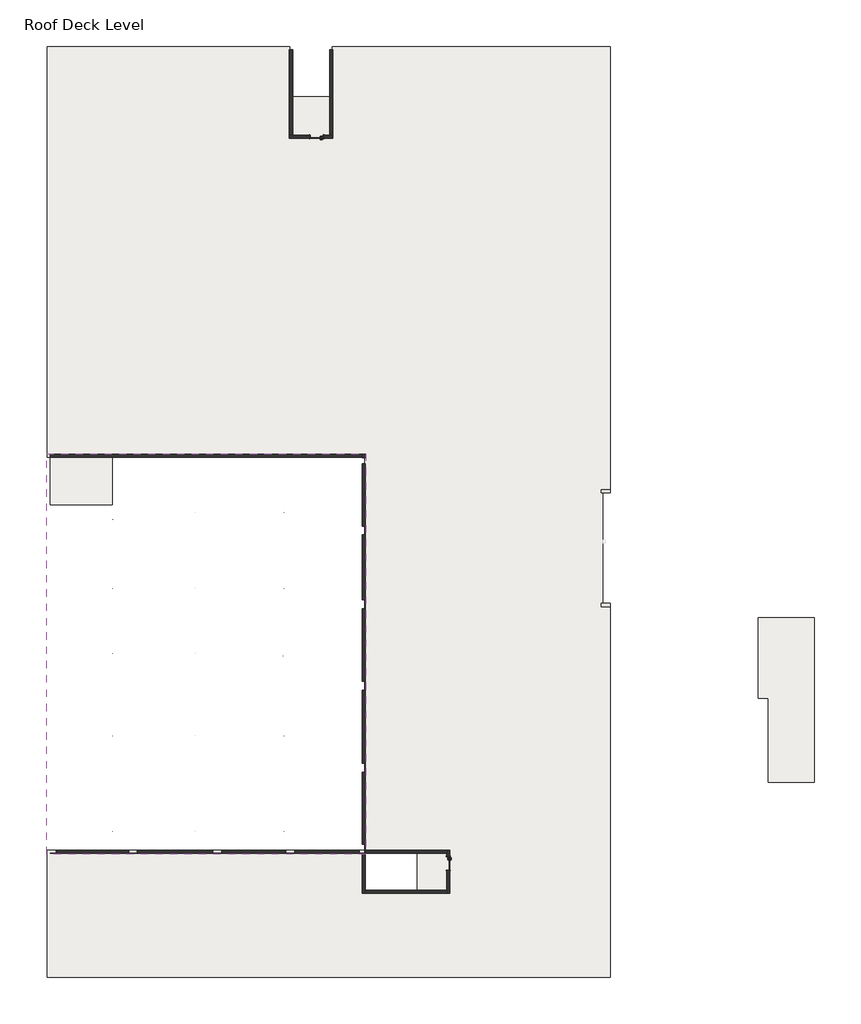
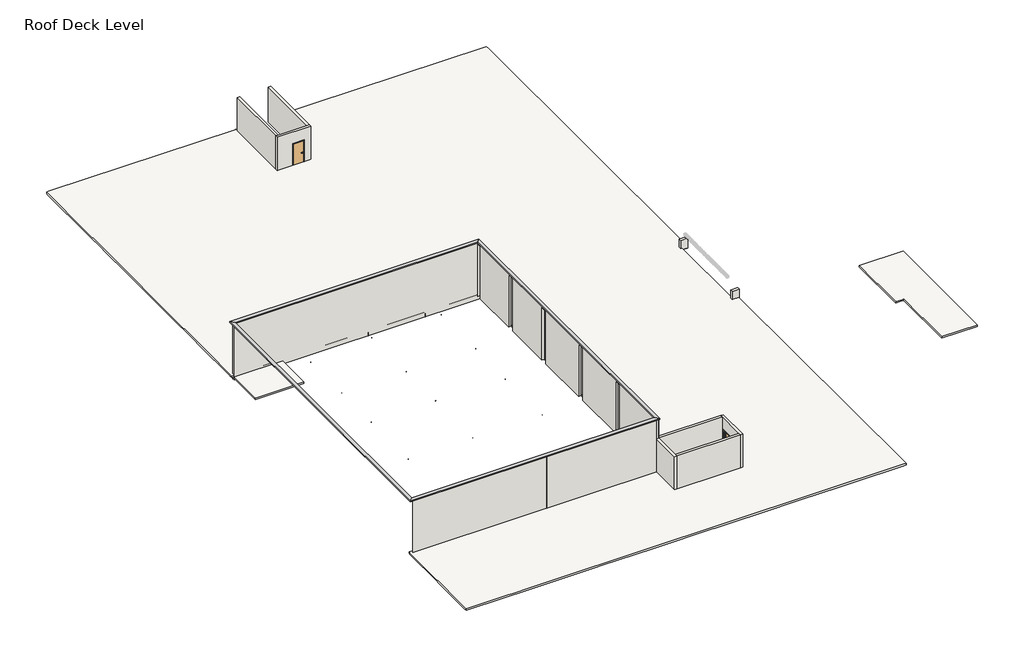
# One storey, part 1 of 2: 15 light fixtures, 12 walls, 3 slabs, 2 doors, 1 proxy.
"""IFC4 building model written with IfcOpenShell, lengths in millimetres."""

from ifc_helpers import new_model, si_unit, frame, origin, place, context, project, spatial, polyline, outline, extrude, faceted_brep, transform, mapped, element, save
from components import int_single_flush_nz_900_x_2100_021ef152, m_studio_light_120v_2dcb9a91

model = new_model("IFC4")

# Units and contexts
model_context = context("Model", 3, world=origin())
ifc_project = project(units=[si_unit("LENGTHUNIT", "METRE", prefix="MILLI")], contexts=[model_context])

# Site, building, storey
site = spatial("IfcSite", under=ifc_project)
building = spatial("IfcBuilding", under=site)
storey = spatial("IfcBuildingStorey", under=building, Name="Roof Deck Level", Elevation=4400.0)

# Proxy
placement = place(None, origin())
element("IfcBuildingElementProxy", 1, Name="Cornice", ObjectType="Cornice", at=placement, inside=storey, context=model_context, shape_type="SweptSolid", body=[
    extrude(outline(polyline([(-22097.2327605, -33004.7846466), (-21797.2327605, -32704.7846466), (-787.2327605, -32704.7846466), (-487.2327605, -33004.7846466), (-22097.2327605, -33004.7846466)])), frame((0.0, 0.0, 9300.0), z_axis=(0.0, 0.0, 1.0), x_axis=(1.0, 0.0, 0.0)), (0.0, 0.0, 1.0), 100.0),
    extrude(outline(polyline([(-787.2327605, -6204.7846466), (-487.2327605, -5904.7846466), (-487.2327605, -33004.7846466), (-787.2327605, -32704.7846466), (-787.2327605, -6204.7846466)])), frame((0.0, 0.0, 9300.0), z_axis=(0.0, 0.0, 1.0), x_axis=(1.0, 0.0, 0.0)), (0.0, 0.0, 1.0), 100.0),
    extrude(outline(polyline([(-487.2327605, -5904.7846466), (-787.2327605, -6204.7846466), (-21797.2327605, -6204.7846466), (-22097.2327605, -5904.7846466), (-487.2327605, -5904.7846466)])), frame((0.0, 0.0, 9300.0), z_axis=(0.0, 0.0, 1.0), x_axis=(1.0, 0.0, 0.0)), (0.0, 0.0, 1.0), 100.0),
    extrude(outline(polyline([(-21797.2327605, -32704.7846466), (-22097.2327605, -33004.7846466), (-22097.2327605, -5904.7846466), (-21797.2327605, -6204.7846466), (-21797.2327605, -32704.7846466)])), frame((0.0, 0.0, 9300.0), z_axis=(0.0, 0.0, 1.0), x_axis=(1.0, 0.0, 0.0)), (0.0, 0.0, 1.0), 100.0),
])

# Doors
int_single_flush_nz_900_x_2100_shape = int_single_flush_nz_900_x_2100_021ef152(model_context)
element("IfcDoor", 2, ObjectType="Int Single-Flush (NZ) : 900 x 2100", at=placement, inside=storey, context=model_context, shape_type="MappedRepresentation", body=[
    mapped(int_single_flush_nz_900_x_2100_shape, transform((5082.7672395, -33708.7846466, 4400.0), x_axis=(0.0, -1.0, 0.0), y_axis=(1.0, 0.0, 0.0), z_axis=(0.0, 0.0, 1.0))),
])
element("IfcDoor", 3, ObjectType="Int Single-Flush (NZ) : 900 x 2100", at=placement, inside=storey, context=model_context, shape_type="MappedRepresentation", body=[
    mapped(int_single_flush_nz_900_x_2100_shape, transform((-3891.2327605, 15545.2153534, 4400.0), x_axis=(-1.0, 0.0, 0.0), y_axis=(0.0, -1.0, 0.0), z_axis=(0.0, 0.0, 1.0))),
])

# Light fixtures
m_studio_light_120v_shape = m_studio_light_120v_2dcb9a91(model_context)
element("IfcLightFixture", 4, ObjectType="M_Studio Light : 120V", at=placement, inside=storey, context=model_context, shape_type="MappedRepresentation", body=[
    mapped(m_studio_light_120v_shape, transform((-12047.2327605, -9864.7846466, 4400.0), x_axis=(1.0, 0.0, 0.0), y_axis=(0.0, 1.0, 0.0), z_axis=(0.0, 0.0, 1.0))),
])
element("IfcLightFixture", 5, ObjectType="M_Studio Light : 120V", at=placement, inside=storey, context=model_context, shape_type="MappedRepresentation", body=[
    mapped(m_studio_light_120v_shape, transform((-12047.2327605, -15012.7846466, 4400.0), x_axis=(1.0, 0.0, 0.0), y_axis=(0.0, 1.0, 0.0), z_axis=(0.0, 0.0, 1.0))),
])
element("IfcLightFixture", 6, ObjectType="M_Studio Light : 120V", at=placement, inside=storey, context=model_context, shape_type="MappedRepresentation", body=[
    mapped(m_studio_light_120v_shape, transform((-12047.2327605, -19404.7846466, 4400.0), x_axis=(1.0, 0.0, 0.0), y_axis=(0.0, 1.0, 0.0), z_axis=(0.0, 0.0, 1.0))),
])
element("IfcLightFixture", 7, ObjectType="M_Studio Light : 120V", at=placement, inside=storey, context=model_context, shape_type="MappedRepresentation", body=[
    mapped(m_studio_light_120v_shape, transform((-12047.2327605, -25004.7846466, 4400.0), x_axis=(1.0, 0.0, 0.0), y_axis=(0.0, 1.0, 0.0), z_axis=(0.0, 0.0, 1.0))),
])
element("IfcLightFixture", 8, ObjectType="M_Studio Light : 120V", at=placement, inside=storey, context=model_context, shape_type="MappedRepresentation", body=[
    mapped(m_studio_light_120v_shape, transform((-12047.2327605, -31454.7846468, 4400.0), x_axis=(1.0, 0.0, 0.0), y_axis=(0.0, 1.0, 0.0), z_axis=(0.0, 0.0, 1.0))),
])
element("IfcLightFixture", 9, ObjectType="M_Studio Light : 120V", at=placement, inside=storey, context=model_context, shape_type="MappedRepresentation", body=[
    mapped(m_studio_light_120v_shape, transform((-17631.8152535, -10364.7846466, 4400.0), x_axis=(1.0, 0.0, 0.0), y_axis=(0.0, 1.0, 0.0), z_axis=(0.0, 0.0, 1.0))),
])
element("IfcLightFixture", 10, ObjectType="M_Studio Light : 120V", at=placement, inside=storey, context=model_context, shape_type="MappedRepresentation", body=[
    mapped(m_studio_light_120v_shape, transform((-17631.8152535, -15012.7846466, 4400.0), x_axis=(1.0, 0.0, 0.0), y_axis=(0.0, 1.0, 0.0), z_axis=(0.0, 0.0, 1.0))),
])
element("IfcLightFixture", 11, ObjectType="M_Studio Light : 120V", at=placement, inside=storey, context=model_context, shape_type="MappedRepresentation", body=[
    mapped(m_studio_light_120v_shape, transform((-17631.8152535, -19404.7846466, 4400.0), x_axis=(1.0, 0.0, 0.0), y_axis=(0.0, 1.0, 0.0), z_axis=(0.0, 0.0, 1.0))),
])
element("IfcLightFixture", 12, ObjectType="M_Studio Light : 120V", at=placement, inside=storey, context=model_context, shape_type="MappedRepresentation", body=[
    mapped(m_studio_light_120v_shape, transform((-17631.8152535, -25004.7846466, 4400.0), x_axis=(1.0, 0.0, 0.0), y_axis=(0.0, 1.0, 0.0), z_axis=(0.0, 0.0, 1.0))),
])
element("IfcLightFixture", 13, ObjectType="M_Studio Light : 120V", at=placement, inside=storey, context=model_context, shape_type="MappedRepresentation", body=[
    mapped(m_studio_light_120v_shape, transform((-17631.8152535, -31454.7846468, 4400.0), x_axis=(1.0, 0.0, 0.0), y_axis=(0.0, 1.0, 0.0), z_axis=(0.0, 0.0, 1.0))),
])
element("IfcLightFixture", 14, ObjectType="M_Studio Light : 120V", at=placement, inside=storey, context=model_context, shape_type="MappedRepresentation", body=[
    mapped(m_studio_light_120v_shape, transform((-6028.3780019, -9864.7846466, 4400.0), x_axis=(1.0, 0.0, 0.0), y_axis=(0.0, 1.0, 0.0), z_axis=(0.0, 0.0, 1.0))),
])
element("IfcLightFixture", 15, ObjectType="M_Studio Light : 120V", at=placement, inside=storey, context=model_context, shape_type="MappedRepresentation", body=[
    mapped(m_studio_light_120v_shape, transform((-6028.3780019, -15012.7846466, 4400.0), x_axis=(1.0, 0.0, 0.0), y_axis=(0.0, 1.0, 0.0), z_axis=(0.0, 0.0, 1.0))),
])
element("IfcLightFixture", 16, ObjectType="M_Studio Light : 120V", at=placement, inside=storey, context=model_context, shape_type="MappedRepresentation", body=[
    mapped(m_studio_light_120v_shape, transform((-6093.240678, -19574.7846466, 4400.0), x_axis=(1.0, 0.0, 0.0), y_axis=(0.0, 1.0, 0.0), z_axis=(0.0, 0.0, 1.0))),
])
element("IfcLightFixture", 17, ObjectType="M_Studio Light : 120V", at=placement, inside=storey, context=model_context, shape_type="MappedRepresentation", body=[
    mapped(m_studio_light_120v_shape, transform((-6028.3780019, -25004.7846466, 4400.0), x_axis=(1.0, 0.0, 0.0), y_axis=(0.0, 1.0, 0.0), z_axis=(0.0, 0.0, 1.0))),
])
element("IfcLightFixture", 18, ObjectType="M_Studio Light : 120V", at=placement, inside=storey, context=model_context, shape_type="MappedRepresentation", body=[
    mapped(m_studio_light_120v_shape, transform((-6028.3780019, -31454.7846468, 4400.0), x_axis=(1.0, 0.0, 0.0), y_axis=(0.0, 1.0, 0.0), z_axis=(0.0, 0.0, 1.0))),
])

# Slabs
element("IfcSlab", 19, ObjectType="Concrete130mm", at=placement, inside=storey, context=model_context, shape_type="Brep", body=[
    faceted_brep([(-21847.2327605, -6174.7846466, 4270.0), (-21447.2327605, -6174.7846466, 4270.0), (-17657.2327605, -6174.7846466, 4270.0), (-17657.2327605, -9154.7846466, 4270.0), (-17657.2327605, -9354.7846466, 4270.0), (-18047.2327605, -9354.7846466, 4270.0), (-21837.2327605, -9354.7846466, 4270.0), (-21847.2327605, -9354.7846466, 4270.0), (-21847.2327605, -6574.7846466, 4270.0), (-21847.2327605, -6174.7846466, 4400.0), (-21847.2327605, -6574.7846466, 4400.0), (-21847.2327605, -9354.7846466, 4400.0), (-21837.2327605, -9354.7846466, 4400.0), (-17657.2327605, -9354.7846466, 4400.0), (-17657.2327605, -9154.7846466, 4400.0), (-17657.2327605, -6174.7846466, 4400.0), (-21447.2327605, -6174.7846466, 4400.0)], [[[0, 1, 2, 3, 4, 5, 6, 7, 8]], [[9, 10, 11, 12, 13, 14, 15, 16]], [[2, 1, 0, 9, 16, 15]], [[4, 3, 2, 15, 14, 13]], [[7, 6, 5, 4, 13, 12, 11]], [[0, 8, 7, 11, 10, 9]]]),
])
element("IfcSlab", 20, ObjectType="Concrete130mm", at=placement, inside=storey, context=model_context, shape_type="Brep", body=[
    faceted_brep([(29852.7672395, -17004.7846454, 4270.0), (29852.7672395, -17014.7846454, 4270.0), (29852.7672395, -28154.7846456, 4270.0), (29842.7672395, -28154.7846456, 4270.0), (26752.7672394, -28154.7846456, 4270.0), (26752.7672394, -28144.7846456, 4270.0), (26752.7672394, -22454.7846454, 4270.0), (26542.7672394, -22454.7846454, 4270.0), (26052.7672395, -22454.7846454, 4270.0), (26052.7672395, -22444.7846454, 4270.0), (26052.7672395, -17014.7846454, 4270.0), (26052.7672395, -17004.7846454, 4270.0), (29852.7672395, -17004.7846454, 4400.0), (26052.7672395, -17004.7846454, 4400.0), (26052.7672395, -17014.7846454, 4400.0), (26052.7672395, -22444.7846454, 4400.0), (26052.7672395, -22454.7846454, 4400.0), (26542.7672394, -22454.7846454, 4400.0), (26752.7672394, -22454.7846454, 4400.0), (26752.7672394, -28144.7846456, 4400.0), (26752.7672394, -28154.7846456, 4400.0), (29842.7672395, -28154.7846456, 4400.0), (29852.7672395, -28154.7846456, 4400.0), (29852.7672395, -17014.7846454, 4400.0)], [[[0, 1, 2, 3, 4, 5, 6, 7, 8, 9, 10, 11]], [[12, 13, 14, 15, 16, 17, 18, 19, 20, 21, 22, 23]], [[2, 1, 0, 12, 23, 22]], [[4, 3, 2, 22, 21, 20]], [[6, 5, 4, 20, 19, 18]], [[8, 7, 6, 18, 17, 16]], [[11, 10, 9, 8, 16, 15, 14, 13]], [[0, 11, 13, 12]]]),
])
element("IfcSlab", 21, ObjectType="Generic 150mm", at=placement, inside=storey, context=model_context, shape_type="Brep", body=[
    faceted_brep([(-5647.2327605, 21645.2153534, 4400.0), (-5647.2327605, 18235.506875, 4400.0), (-2747.2327605, 18235.506875, 4400.0), (-2747.2327605, 21645.2153534, 4400.0), (-2737.2327605, 21645.2153534, 4400.0), (2802.7672395, 21645.2153534, 4400.0), (3302.7672395, 21645.2153534, 4400.0), (7652.7672395, 21645.2153534, 4400.0), (7852.7672395, 21645.2153534, 4400.0), (11052.7672395, 21645.2153534, 4400.0), (11552.7672395, 21645.2153534, 4400.0), (15652.7672395, 21645.2153534, 4400.0), (16052.7672395, 21645.2153534, 4400.0), (16052.7672395, 21445.2153534, 4400.0), (16052.7672395, 21435.2153534, 4400.0), (16052.7672395, 15645.2153534, 4400.0), (16052.7672395, 15145.2153534, 4400.0), (16052.7672395, 9795.2153534, 4400.0), (16052.7672395, 9295.2153534, 4400.0), (16052.7672395, 3795.2153534, 4400.0), (16052.7672395, 3295.2153534, 4400.0), (16052.7672395, -2204.7846466, 4400.0), (16052.7672395, -2704.7846466, 4400.0), (16052.7672395, -8134.7846466, 4400.0), (16052.7672395, -8334.7846466, 4400.0), (16052.7672395, -8344.7846466, 4400.0), (16052.7672395, -8354.7846466, 4400.0), (16052.7672395, -8554.7846466, 4400.0), (15652.7672395, -8554.7846466, 4400.0), (15552.7672395, -8554.7846466, 4400.0), (15552.7672395, -8564.7846466, 4400.0), (15552.7672395, -16044.7846466, 4400.0), (15552.7672395, -16054.7846466, 4400.0), (15852.7672395, -16054.7846466, 4400.0), (16052.7672395, -16054.7846466, 4400.0), (16053.0482736, -16054.7846466, 4400.0), (16053.0482736, -16264.7846466, 4400.0), (16053.0482736, -41354.7846466, 4400.0), (16052.7672395, -41354.7846466, 4400.0), (15852.7672395, -41354.7846466, 4400.0), (15843.0482736, -41354.7846466, 4400.0), (11502.7672395, -41354.7846466, 4400.0), (11002.7672395, -41354.7846466, 4400.0), (7852.7672395, -41354.7846466, 4400.0), (7652.7672395, -41354.7846466, 4400.0), (5452.7672395, -41354.7846466, 4400.0), (4952.7672395, -41354.7846466, 4400.0), (-547.2327605, -41354.7846466, 4400.0), (-747.2327605, -41354.7846466, 4400.0), (-5397.2327605, -41354.7846466, 4400.0), (-5897.2327605, -41354.7846466, 4400.0), (-10297.2327605, -41354.7846466, 4400.0), (-10797.2327605, -41354.7846466, 4400.0), (-15997.2327605, -41354.7846466, 4400.0), (-16497.2327605, -41354.7846466, 4400.0), (-21647.2327605, -41354.7846466, 4400.0), (-22047.2327605, -41354.7846466, 4400.0), (-22047.2327605, -41154.7846466, 4400.0), (-22047.2327605, -41144.7846466, 4400.0), (-22047.2327605, -37304.7846466, 4400.0), (-22047.2327605, -36804.7846466, 4400.0), (-22047.2327605, -32964.7846466, 4400.0), (-22047.2327605, -32954.7846466, 4400.0), (-22047.2327605, -32754.7846466, 4400.0), (-21447.2327605, -32754.7846466, 4400.0), (-16547.2327605, -32754.7846466, 4400.0), (-15947.2327605, -32754.7846466, 4400.0), (-10847.2327605, -32754.7846466, 4400.0), (-10247.2327605, -32754.7846466, 4400.0), (-5897.2327605, -32754.7846466, 4400.0), (-5297.2327605, -32754.7846466, 4400.0), (-947.2327605, -32754.7846466, 4400.0), (-547.2327605, -32754.7846466, 4400.0), (-547.2327605, -32354.7846466, 4400.0), (-547.2327605, -27454.7846466, 4400.0), (-547.2327605, -26854.7846466, 4400.0), (-547.2327605, -21904.7846466, 4400.0), (-547.2327605, -21304.7846466, 4400.0), (-547.2327605, -16404.7846466, 4400.0), (-547.2327605, -15804.7846466, 4400.0), (-547.2327605, -11404.7846466, 4400.0), (-547.2327605, -10804.7846466, 4400.0), (-547.2327605, -6574.7846466, 4400.0), (-547.2327605, -6174.7846466, 4400.0), (-547.2327605, -6154.7846466, 4400.0), (-927.2327605, -6154.7846466, 4400.0), (-5297.2327605, -6154.7846466, 4400.0), (-5897.2327605, -6154.7846466, 4400.0), (-10247.2327605, -6154.7846466, 4400.0), (-10847.2327605, -6154.7846466, 4400.0), (-15947.2327605, -6154.7846466, 4400.0), (-16547.2327605, -6154.7846466, 4400.0), (-21447.2327605, -6154.7846466, 4400.0), (-22047.2327605, -6154.7846466, 4400.0), (-22047.2327605, -5954.7846466, 4400.0), (-22047.2327605, -5944.7846466, 4400.0), (-22047.2327605, -1154.7846466, 4400.0), (-22047.2327605, -654.7846466, 4400.0), (-22047.2327605, 3295.2153534, 4400.0), (-22047.2327605, 3795.2153534, 4400.0), (-22047.2327605, 8895.2153534, 4400.0), (-22047.2327605, 9395.2153534, 4400.0), (-22047.2327605, 13045.2153534, 4400.0), (-22047.2327605, 13245.2153534, 4400.0), (-22047.2327605, 15445.2153534, 4400.0), (-22047.2327605, 15645.2153534, 4400.0), (-22047.2327605, 21445.2153534, 4400.0), (-22047.2327605, 21645.2153534, 4400.0), (-21647.2327605, 21645.2153534, 4400.0), (-16297.2327605, 21645.2153534, 4400.0), (-15797.2327605, 21645.2153534, 4400.0), (-11697.2327605, 21645.2153534, 4400.0), (-11197.2327605, 21645.2153534, 4400.0), (-5657.2327605, 21645.2153534, 4400.0), (2961.7442506, -32964.7846466, 4400.0), (-527.2327605, -32964.7846466, 4400.0), (-527.2327605, -35444.7846466, 4400.0), (2961.7442506, -35444.7846466, 4400.0), (-5647.2327605, 21645.2153534, 4550.0), (-5657.2327605, 21645.2153534, 4550.0), (-21837.2327605, 21645.2153534, 4550.0), (-22047.2327605, 21645.2153534, 4550.0), (-22047.2327605, -5944.7846466, 4550.0), (-22047.2327605, -6154.7846466, 4550.0), (-547.2327605, -6154.7846466, 4550.0), (-547.2327605, -6174.7846466, 4550.0), (-547.2327605, -6574.7846466, 4550.0), (-547.2327605, -32754.7846466, 4550.0), (-947.2327605, -32754.7846466, 4550.0), (-5297.2327605, -32754.7846466, 4550.0), (-5897.2327605, -32754.7846466, 4550.0), (-10247.2327605, -32754.7846466, 4550.0), (-10847.2327605, -32754.7846466, 4550.0), (-15947.2327605, -32754.7846466, 4550.0), (-16547.2327605, -32754.7846466, 4550.0), (-21447.2327605, -32754.7846466, 4550.0), (-22047.2327605, -32754.7846466, 4550.0), (-22047.2327605, -32954.7846466, 4550.0), (-22047.2327605, -32964.7846466, 4550.0), (-22047.2327605, -41144.7846466, 4550.0), (-22047.2327605, -41354.7846466, 4550.0), (15843.0482736, -41354.7846466, 4550.0), (16053.0482736, -41354.7846466, 4550.0), (16053.0482736, -16264.7846466, 4550.0), (16053.0482736, -16054.7846466, 4550.0), (15552.7672395, -16054.7846466, 4550.0), (15552.7672395, -16044.7846466, 4550.0), (15552.7672395, -8564.7846466, 4550.0), (15552.7672395, -8554.7846466, 4550.0), (16052.7672395, -8554.7846466, 4550.0), (16052.7672395, -8344.7846466, 4550.0), (16052.7672395, 21435.2153534, 4550.0), (16052.7672395, 21645.2153534, 4550.0), (-2737.2327605, 21645.2153534, 4550.0), (-2747.2327605, 21645.2153534, 4550.0), (-2747.2327605, 18235.506875, 4550.0), (-5647.2327605, 18235.506875, 4550.0), (2961.7442506, -32964.7846466, 4550.0), (2961.7442506, -35444.7846466, 4550.0), (-527.2327605, -35444.7846466, 4550.0), (-527.2327605, -32964.7846466, 4550.0)], [[[0, 1, 2, 3, 4, 5, 6, 7, 8, 9, 10, 11, 12, 13, 14, 15, 16, 17, 18, 19, 20, 21, 22, 23, 24, 25, 26, 27, 28, 29, 30, 31, 32, 33, 34, 35, 36, 37, 38, 39, 40, 41, 42, 43, 44, 45, 46, 47, 48, 49, 50, 51, 52, 53, 54, 55, 56, 57, 58, 59, 60, 61, 62, 63, 64, 65, 66, 67, 68, 69, 70, 71, 72, 73, 74, 75, 76, 77, 78, 79, 80, 81, 82, 83, 84, 85, 86, 87, 88, 89, 90, 91, 92, 93, 94, 95, 96, 97, 98, 99, 100, 101, 102, 103, 104, 105, 106, 107, 108, 109, 110, 111, 112, 113], [114, 115, 116, 117]], [[118, 119, 120, 121, 122, 123, 124, 125, 126, 127, 128, 129, 130, 131, 132, 133, 134, 135, 136, 137, 138, 139, 140, 141, 142, 143, 144, 145, 146, 147, 148, 149, 150, 151, 152, 153, 154, 155, 156], [157, 158, 159, 160]], [[1, 0, 118, 156]], [[2, 1, 156, 155]], [[3, 2, 155, 154]], [[12, 11, 10, 9, 8, 7, 6, 5, 4, 3, 154, 153, 152]], [[27, 26, 25, 24, 23, 22, 21, 20, 19, 18, 17, 16, 15, 14, 13, 12, 152, 151, 150, 149]], [[29, 28, 27, 149, 148]], [[32, 31, 30, 29, 148, 147, 146, 145]], [[35, 34, 33, 32, 145, 144]], [[37, 36, 35, 144, 143, 142]], [[56, 55, 54, 53, 52, 51, 50, 49, 48, 47, 46, 45, 44, 43, 42, 41, 40, 39, 38, 37, 142, 141, 140]], [[63, 62, 61, 60, 59, 58, 57, 56, 140, 139, 138, 137, 136]], [[72, 71, 70, 69, 68, 67, 66, 65, 64, 63, 136, 135, 134, 133, 132, 131, 130, 129, 128, 127]], [[84, 83, 82, 81, 80, 79, 78, 77, 76, 75, 74, 73, 72, 127, 126, 125, 124]], [[93, 92, 91, 90, 89, 88, 87, 86, 85, 84, 124, 123]], [[107, 106, 105, 104, 103, 102, 101, 100, 99, 98, 97, 96, 95, 94, 93, 123, 122, 121]], [[0, 113, 112, 111, 110, 109, 108, 107, 121, 120, 119, 118]], [[115, 114, 157, 160]], [[116, 115, 160, 159]], [[117, 116, 159, 158]], [[114, 117, 158, 157]]]),
])

# Walls
element("IfcWall", 22, ObjectType="Exterior - Blockwork 200mm", at=placement, inside=storey, context=model_context, shape_type="Brep", body=[
    faceted_brep([(-747.2327605, -32964.7846466, 9300.0), (-747.2327605, -32744.7846466, 9300.0), (-747.2327605, -6164.7846466, 9300.0), (-747.2327605, -5944.7846466, 9300.0), (-747.2327605, -5944.7846466, 4400.0), (-747.2327605, -6164.7846466, 4400.0), (-747.2327605, -6174.7846466, 4400.0), (-747.2327605, -6174.7846466, 9200.0), (-747.2327605, -6574.7846466, 9200.0), (-747.2327605, -6574.7846466, 4400.0), (-747.2327605, -10804.7846466, 4400.0), (-747.2327605, -10804.7846466, 9200.0), (-747.2327605, -11404.7846466, 9200.0), (-747.2327605, -11404.7846466, 4400.0), (-747.2327605, -15804.7846466, 4400.0), (-747.2327605, -15804.7846466, 9200.0), (-747.2327605, -16404.7846466, 9200.0), (-747.2327605, -16404.7846466, 4400.0), (-747.2327605, -21304.7846466, 4400.0), (-747.2327605, -21304.7846466, 9200.0), (-747.2327605, -21904.7846466, 9200.0), (-747.2327605, -21904.7846466, 4400.0), (-747.2327605, -26854.7846466, 4400.0), (-747.2327605, -26854.7846466, 9200.0), (-747.2327605, -27454.7846466, 9200.0), (-747.2327605, -27454.7846466, 4400.0), (-747.2327605, -32354.7846466, 4400.0), (-747.2327605, -32354.7846466, 9200.0), (-747.2327605, -32744.7846466, 9200.0), (-747.2327605, -32954.7846466, 9200.0), (-747.2327605, -32954.7846466, 4400.0), (-747.2327605, -32964.7846466, 4400.0), (-527.2327605, -5944.7846466, 9300.0), (-527.2327605, -32964.7846466, 9300.0), (-527.2327605, -32964.7846466, 7577.9866743), (-527.2327605, -32964.7846466, 4400.0), (-527.2327605, -32744.7846466, 4400.0), (-527.2327605, -6574.7846466, 4400.0), (-527.2327605, -6574.7846466, 9200.0), (-527.2327605, -6174.7846466, 9200.0), (-527.2327605, -6174.7846466, 4400.0), (-527.2327605, -5944.7846466, 4400.0), (-547.2327605, -32954.7846466, 4400.0), (-547.2327605, -32354.7846466, 4400.0), (-547.2327605, -27454.7846466, 4400.0), (-547.2327605, -26854.7846466, 4400.0), (-547.2327605, -21904.7846466, 4400.0), (-547.2327605, -21304.7846466, 4400.0), (-547.2327605, -16404.7846466, 4400.0), (-547.2327605, -15804.7846466, 4400.0), (-547.2327605, -11404.7846466, 4400.0), (-547.2327605, -10804.7846466, 4400.0), (-537.2327605, -5944.7846466, 4400.0), (-547.2327605, -32954.7846466, 9200.0), (-547.2327605, -32354.7846466, 9200.0), (-547.2327605, -32954.7846466, 4550.0), (-547.2327605, -27454.7846466, 9200.0), (-547.2327605, -26854.7846466, 9200.0), (-547.2327605, -21904.7846466, 9200.0), (-547.2327605, -21304.7846466, 9200.0), (-547.2327605, -16404.7846466, 9200.0), (-547.2327605, -15804.7846466, 9200.0), (-547.2327605, -11404.7846466, 9200.0), (-547.2327605, -10804.7846466, 9200.0)], [[[0, 1, 2, 3, 4, 5, 6, 7, 8, 9, 10, 11, 12, 13, 14, 15, 16, 17, 18, 19, 20, 21, 22, 23, 24, 25, 26, 27, 28, 29, 30, 31]], [[32, 33, 34, 35, 36, 37, 38, 39, 40, 41]], [[42, 43, 26, 25, 44, 45, 22, 21, 46, 47, 18, 17, 48, 49, 14, 13, 50, 51, 10, 9, 37, 36, 35, 31, 30]], [[4, 52, 41, 40, 6, 5]], [[3, 2, 1, 0, 33, 32]], [[53, 54, 43, 42, 55]], [[54, 27, 26, 43]], [[54, 53, 29, 28, 27]], [[56, 57, 45, 44]], [[24, 56, 44, 25]], [[57, 23, 22, 45]], [[57, 56, 24, 23]], [[58, 59, 47, 46]], [[20, 58, 46, 21]], [[59, 19, 18, 47]], [[59, 58, 20, 19]], [[60, 61, 49, 48]], [[16, 60, 48, 17]], [[61, 15, 14, 49]], [[61, 60, 16, 15]], [[62, 63, 51, 50]], [[12, 62, 50, 13]], [[63, 11, 10, 51]], [[63, 62, 12, 11]], [[39, 7, 6, 40]], [[38, 8, 7, 39]], [[4, 3, 32, 41, 52]], [[29, 53, 55, 42, 30]], [[31, 35, 34, 33, 0]], [[8, 38, 37, 9]]]),
])
element("IfcWall", 23, ObjectType="Exterior - Blockwork 200mm", at=placement, inside=storey, context=model_context, shape_type="Brep", body=[
    faceted_brep([(-537.2327605, -5944.7846466, 4100.0), (-21837.2327605, -5944.7846466, 4100.0), (-21837.2327605, -5944.7846466, 5302.8002678), (-21837.2327605, -5944.7846466, 9300.0), (-747.2327605, -5944.7846466, 9300.0), (-747.2327605, -5944.7846466, 4400.0), (-537.2327605, -5944.7846466, 4400.0), (-21837.2327605, -6164.7846466, 4100.0), (-537.2327605, -6164.7846466, 4100.0), (-537.2327605, -6164.7846466, 4400.0), (-747.2327605, -6164.7846466, 4400.0), (-747.2327605, -6164.7846466, 9300.0), (-21837.2327605, -6164.7846466, 9300.0), (-537.2327605, -5954.7846466, 4100.0), (-927.2327605, -5954.7846466, 4100.0), (-927.2327605, -6154.7846466, 4100.0), (-537.2327605, -6154.7846466, 4100.0), (-21837.2327605, -6154.7846466, 4100.0), (-21447.2327605, -6154.7846466, 4100.0), (-21447.2327605, -5954.7846466, 4100.0), (-21837.2327605, -5954.7846466, 4100.0), (-16547.2327605, -6154.7846466, 4100.0), (-15947.2327605, -6154.7846466, 4100.0), (-15947.2327605, -5954.7846466, 4100.0), (-16547.2327605, -5954.7846466, 4100.0), (-10847.2327605, -6154.7846466, 4100.0), (-10247.2327605, -6154.7846466, 4100.0), (-10247.2327605, -5954.7846466, 4100.0), (-10847.2327605, -5954.7846466, 4100.0), (-5897.2327605, -6154.7846466, 4100.0), (-5297.2327605, -6154.7846466, 4100.0), (-5297.2327605, -5954.7846466, 4100.0), (-5897.2327605, -5954.7846466, 4100.0), (-537.2327605, -6154.7846466, 4400.0), (-747.2327605, -6154.7846466, 4400.0), (-747.2327605, -5954.7846466, 4400.0), (-537.2327605, -5954.7846466, 4400.0), (-21447.2327605, -6154.7846466, 4400.0), (-21837.2327605, -6154.7846466, 4400.0), (-21447.2327605, -5954.7846466, 4400.0), (-21837.2327605, -5954.7846466, 4400.0), (-16547.2327605, -6154.7846466, 4400.0), (-15947.2327605, -6154.7846466, 4400.0), (-16547.2327605, -5954.7846466, 4400.0), (-15947.2327605, -5954.7846466, 4400.0), (-10847.2327605, -6154.7846466, 4400.0), (-10247.2327605, -6154.7846466, 4400.0), (-10847.2327605, -5954.7846466, 4400.0), (-10247.2327605, -5954.7846466, 4400.0), (-5897.2327605, -6154.7846466, 4400.0), (-5297.2327605, -6154.7846466, 4400.0), (-5897.2327605, -5954.7846466, 4400.0), (-5297.2327605, -5954.7846466, 4400.0), (-927.2327605, -6154.7846466, 4400.0), (-927.2327605, -5954.7846466, 4400.0)], [[[0, 1, 2, 3, 4, 5, 6]], [[7, 8, 9, 10, 11, 12]], [[1, 0, 13, 14, 15, 16, 8, 7, 17, 18, 19, 20], [21, 22, 23, 24], [25, 26, 27, 28], [29, 30, 31, 32]], [[4, 3, 12, 11]], [[10, 9, 33, 34]], [[6, 5, 35, 36]], [[9, 8, 16, 33]], [[0, 6, 36, 13]], [[4, 11, 10, 34, 35, 5]], [[37, 18, 17, 38]], [[19, 39, 40, 20]], [[37, 39, 19, 18]], [[39, 37, 38, 40]], [[41, 42, 22, 21]], [[43, 41, 21, 24]], [[44, 43, 24, 23]], [[42, 44, 23, 22]], [[42, 41, 43, 44]], [[45, 46, 26, 25]], [[47, 45, 25, 28]], [[48, 47, 28, 27]], [[46, 48, 27, 26]], [[46, 45, 47, 48]], [[49, 50, 30, 29]], [[51, 49, 29, 32]], [[52, 51, 32, 31]], [[50, 52, 31, 30]], [[50, 49, 51, 52]], [[53, 34, 33, 16, 15]], [[54, 53, 15, 14]], [[35, 54, 14, 13, 36]], [[53, 54, 35, 34]], [[12, 3, 2, 1, 20, 40, 38, 17, 7]]]),
])
element("IfcWall", 24, ObjectType="Exterior - Blockwork 200mm", at=placement, inside=storey, context=model_context, shape_type="Brep", body=[
    faceted_brep([(-21837.2327605, -32964.7846466, 4400.0), (-747.2327605, -32964.7846466, 4400.0), (-747.2327605, -32964.7846466, 9300.0), (-21837.2327605, -32964.7846466, 9300.0), (-21837.2327605, -32744.7846466, 9300.0), (-747.2327605, -32744.7846466, 9300.0), (-747.2327605, -32744.7846466, 9200.0), (-947.2327605, -32744.7846466, 9200.0), (-947.2327605, -32744.7846466, 4400.0), (-5297.2327605, -32744.7846466, 4400.0), (-5297.2327605, -32744.7846466, 9200.0), (-5897.2327605, -32744.7846466, 9200.0), (-5897.2327605, -32744.7846466, 4400.0), (-10247.2327605, -32744.7846466, 4400.0), (-10247.2327605, -32744.7846466, 9200.0), (-10847.2327605, -32744.7846466, 9200.0), (-10847.2327605, -32744.7846466, 4400.0), (-15947.2327605, -32744.7846466, 4400.0), (-15947.2327605, -32744.7846466, 9200.0), (-16547.2327605, -32744.7846466, 9200.0), (-16547.2327605, -32744.7846466, 4400.0), (-21447.2327605, -32744.7846466, 4400.0), (-21447.2327605, -32744.7846466, 9200.0), (-21837.2327605, -32744.7846466, 9200.0), (-21837.2327605, -32954.7846466, 4400.0), (-21447.2327605, -32954.7846466, 4400.0), (-16547.2327605, -32954.7846466, 4400.0), (-15947.2327605, -32954.7846466, 4400.0), (-10847.2327605, -32954.7846466, 4400.0), (-10247.2327605, -32954.7846466, 4400.0), (-5897.2327605, -32954.7846466, 4400.0), (-5297.2327605, -32954.7846466, 4400.0), (-947.2327605, -32954.7846466, 4400.0), (-747.2327605, -32954.7846466, 4400.0), (-747.2327605, -32954.7846466, 9200.0), (-21837.2327605, -32954.7846466, 9200.0), (-21447.2327605, -32954.7846466, 4550.0), (-21447.2327605, -32954.7846466, 9200.0), (-15947.2327605, -32954.7846466, 4550.0), (-15947.2327605, -32954.7846466, 9200.0), (-16547.2327605, -32954.7846466, 9200.0), (-16547.2327605, -32954.7846466, 4550.0), (-10247.2327605, -32954.7846466, 4550.0), (-10247.2327605, -32954.7846466, 9200.0), (-10847.2327605, -32954.7846466, 9200.0), (-10847.2327605, -32954.7846466, 4550.0), (-5297.2327605, -32954.7846466, 4550.0), (-5297.2327605, -32954.7846466, 9200.0), (-5897.2327605, -32954.7846466, 9200.0), (-5897.2327605, -32954.7846466, 4550.0), (-947.2327605, -32954.7846466, 4550.0), (-947.2327605, -32954.7846466, 9200.0)], [[[0, 1, 2, 3]], [[4, 5, 6, 7, 8, 9, 10, 11, 12, 13, 14, 15, 16, 17, 18, 19, 20, 21, 22, 23]], [[1, 0, 24, 25, 21, 20, 26, 27, 17, 16, 28, 29, 13, 12, 30, 31, 9, 8, 32, 33]], [[3, 2, 5, 4]], [[5, 2, 1, 33, 34, 6]], [[3, 4, 23, 35, 24, 0]], [[25, 36, 37, 22, 21]], [[37, 36, 25, 24, 35]], [[22, 37, 35, 23]], [[27, 38, 39, 18, 17]], [[40, 39, 38, 27, 26, 41]], [[40, 41, 26, 20, 19]], [[39, 40, 19, 18]], [[29, 42, 43, 14, 13]], [[44, 43, 42, 29, 28, 45]], [[44, 45, 28, 16, 15]], [[43, 44, 15, 14]], [[31, 46, 47, 10, 9]], [[48, 47, 46, 31, 30, 49]], [[48, 49, 30, 12, 11]], [[47, 48, 11, 10]], [[32, 50, 51, 34, 33]], [[51, 50, 32, 8, 7]], [[34, 51, 7, 6]]]),
])
element("IfcWall", 25, ObjectType="Exterior - Blockwork 200mm", at=placement, inside=storey, context=model_context, shape_type="Brep", body=[
    faceted_brep([(15452.7672395, -16264.7846466, 4400.0), (15843.0482736, -16264.7846466, 4400.0), (16053.0482736, -16264.7846466, 4400.0), (16063.0482736, -16264.7846466, 4400.0), (16063.0482736, -16264.7846466, 5302.8002678), (15843.0482736, -16264.7846466, 5302.8002678), (15452.7672395, -16264.7846466, 5302.8002678), (15452.7672395, -16044.7846466, 4400.0), (15452.7672395, -16044.7846466, 5302.8002678), (16063.0482736, -16044.7846466, 5302.8002678), (16063.0482736, -16044.7846466, 4400.0), (15843.0482736, -16044.7846466, 4400.0)], [[[0, 1, 2, 3, 4, 5, 6]], [[7, 8, 9, 10, 11]], [[3, 2, 1, 0, 7, 11, 10]], [[6, 5, 4, 9, 8]], [[0, 6, 8, 7]], [[4, 3, 10, 9]]]),
])
element("IfcWall", 26, ObjectType="Exterior - Blockwork 200mm", at=placement, inside=storey, context=model_context, shape_type="Brep", body=[
    faceted_brep([(15452.7672395, -8564.7846466, 4400.0), (15842.7672395, -8564.7846466, 4400.0), (16062.7672395, -8564.7846466, 4400.0), (16062.7672395, -8564.7846466, 5302.8002678), (15452.7672395, -8564.7846466, 5302.8002678), (15452.7672395, -8344.7846466, 4400.0), (15452.7672395, -8344.7846466, 5302.8002678), (15842.7672395, -8344.7846466, 5302.8002678), (16062.7672395, -8344.7846466, 5302.8002678), (16062.7672395, -8344.7846466, 4400.0), (16052.7672395, -8344.7846466, 4400.0), (15842.7672395, -8344.7846466, 4400.0)], [[[0, 1, 2, 3, 4]], [[5, 6, 7, 8, 9, 10, 11]], [[2, 1, 0, 5, 11, 10, 9]], [[4, 3, 8, 7, 6]], [[0, 4, 6, 5]], [[3, 2, 9, 8]]]),
])
element("IfcWall", 27, ObjectType="Exterior - Blockwork 200mm", at=placement, inside=storey, context=model_context, shape_type="Brep", body=[
    faceted_brep([(-527.2327605, -35664.7846466, 4400.0), (-527.2327605, -35444.7846466, 4400.0), (-527.2327605, -32964.7846466, 4400.0), (-527.2327605, -32964.7846466, 7577.9866743), (-527.2327605, -35444.7846466, 7577.9866743), (-527.2327605, -35664.7846466, 7577.9866743), (-747.2327605, -35664.7846466, 4400.0), (-747.2327605, -35664.7846466, 7577.9866743), (-747.2327605, -32964.7846466, 7577.9866743), (-747.2327605, -32964.7846466, 4400.0)], [[[0, 1, 2, 3, 4, 5]], [[6, 7, 8, 9]], [[2, 1, 0, 6, 9]], [[5, 4, 3, 8, 7]], [[3, 2, 9, 8]], [[0, 5, 7, 6]]]),
])
element("IfcWall", 28, ObjectType="Exterior - Blockwork 200mm", at=placement, inside=storey, context=model_context, shape_type="Brep", body=[
    faceted_brep([(4972.7672395, -35664.7846466, 7577.9866743), (4972.7672395, -35444.7846466, 7577.9866743), (4972.7672395, -32964.7846466, 7577.9866743), (4972.7672395, -32744.7846466, 7577.9866743), (4972.7672395, -32744.7846466, 4400.0), (4972.7672395, -32964.7846466, 4400.0), (4972.7672395, -33164.7846466, 4400.0), (4972.7672395, -33164.7846466, 6519.0), (4972.7672395, -34102.7846466, 6519.0), (4972.7672395, -34102.7846466, 4400.0), (4972.7672395, -35444.7846466, 4400.0), (4972.7672395, -35664.7846466, 4400.0), (5192.7672395, -32744.7846466, 7577.9866743), (5192.7672395, -35664.7846466, 7577.9866743), (5192.7672395, -35664.7846466, 4400.0), (5192.7672395, -34102.7846466, 4400.0), (5192.7672395, -34102.7846466, 6519.0), (5192.7672395, -33164.7846466, 6519.0), (5192.7672395, -33164.7846466, 4400.0), (5192.7672395, -32744.7846466, 4400.0)], [[[0, 1, 2, 3, 4, 5, 6, 7, 8, 9, 10, 11]], [[12, 13, 14, 15, 16, 17, 18, 19]], [[14, 11, 10, 9, 15]], [[4, 19, 18, 6, 5]], [[3, 2, 1, 0, 13, 12]], [[0, 11, 14, 13]], [[4, 3, 12, 19]], [[8, 16, 15, 9]], [[16, 8, 7, 17]], [[17, 7, 6, 18]]]),
])
element("IfcWall", 29, ObjectType="Exterior - Blockwork 200mm", at=placement, inside=storey, context=model_context, shape_type="SweptSolid", body=[
    extrude(outline(polyline([(-527.2327605, -35444.7846466), (4972.7672395, -35444.7846466), (4972.7672395, -35664.7846466), (-527.2327605, -35664.7846466), (-527.2327605, -35444.7846466)])), frame((0.0, 0.0, 4400.0), z_axis=(0.0, 0.0, 1.0), x_axis=(1.0, 0.0, 0.0)), (0.0, 0.0, 1.0), 3177.9866743),
])
element("IfcWall", 30, ObjectType="Exterior - Blockwork 200mm", at=placement, inside=storey, context=model_context, shape_type="SweptSolid", body=[
    extrude(outline(polyline([(4972.7672395, -32964.7846466), (-527.2327605, -32964.7846466), (-527.2327605, -32744.7846466), (4972.7672395, -32744.7846466), (4972.7672395, -32964.7846466)])), frame((0.0, 0.0, 4400.0), z_axis=(0.0, 0.0, 1.0), x_axis=(1.0, 0.0, 0.0)), (0.0, 0.0, 1.0), 3177.9866743),
])
element("IfcWall", 31, ObjectType="Exterior - Blockwork 200mm", at=placement, inside=storey, context=model_context, shape_type="SweptSolid", body=[
    extrude(outline(polyline([(-2727.2327605, 21435.2153534), (-2727.2327605, 15655.2153534), (-2947.2327605, 15655.2153534), (-2947.2327605, 21435.2153534), (-2727.2327605, 21435.2153534)])), frame((0.0, 0.0, 4400.0), z_axis=(0.0, 0.0, 1.0), x_axis=(1.0, 0.0, 0.0)), (0.0, 0.0, 1.0), 3200.0),
])
element("IfcWall", 32, ObjectType="Exterior - Blockwork 200mm", at=placement, inside=storey, context=model_context, shape_type="Brep", body=[
    faceted_brep([(-5437.2327605, 15655.2153534, 4400.0), (-5437.2327605, 21435.2153534, 4400.0), (-5437.2327605, 21435.2153534, 7600.0), (-5437.2327605, 15655.2153534, 7600.0), (-5657.2327605, 15655.2153534, 4400.0), (-5657.2327605, 15655.2153534, 7600.0), (-5657.2327605, 21435.2153534, 7600.0), (-5657.2327605, 21435.2153534, 7598.0296693), (-5657.2327605, 21435.2153534, 4400.0)], [[[0, 1, 2, 3]], [[4, 5, 6, 7, 8]], [[1, 0, 4, 8]], [[3, 2, 6, 5]], [[0, 3, 5, 4]], [[2, 1, 8, 7, 6]]]),
])
element("IfcWall", 33, ObjectType="Exterior - Blockwork 200mm", at=placement, inside=storey, context=model_context, shape_type="Brep", body=[
    faceted_brep([(-2727.2327605, 15435.2153534, 7600.0), (-5657.2327605, 15435.2153534, 7600.0), (-5657.2327605, 15435.2153534, 4400.0), (-4285.2327605, 15435.2153534, 4400.0), (-4285.2327605, 15435.2153534, 6519.0), (-3347.2327605, 15435.2153534, 6519.0), (-3347.2327605, 15435.2153534, 4400.0), (-2727.2327605, 15435.2153534, 4400.0), (-5657.2327605, 15655.2153534, 7600.0), (-5437.2327605, 15655.2153534, 7600.0), (-2947.2327605, 15655.2153534, 7600.0), (-2727.2327605, 15655.2153534, 7600.0), (-2727.2327605, 15655.2153534, 4400.0), (-2947.2327605, 15655.2153534, 4400.0), (-3347.2327605, 15655.2153534, 4400.0), (-3347.2327605, 15655.2153534, 6519.0), (-4285.2327605, 15655.2153534, 6519.0), (-4285.2327605, 15655.2153534, 4400.0), (-5437.2327605, 15655.2153534, 4400.0), (-5657.2327605, 15655.2153534, 4400.0)], [[[0, 1, 2, 3, 4, 5, 6, 7]], [[8, 9, 10, 11, 12, 13, 14, 15, 16, 17, 18, 19]], [[12, 7, 6, 14, 13]], [[2, 19, 18, 17, 3]], [[1, 0, 11, 10, 9, 8]], [[11, 0, 7, 12]], [[1, 8, 19, 2]], [[16, 4, 3, 17]], [[4, 16, 15, 5]], [[5, 15, 14, 6]]]),
])

save(model, "model.ifc")
